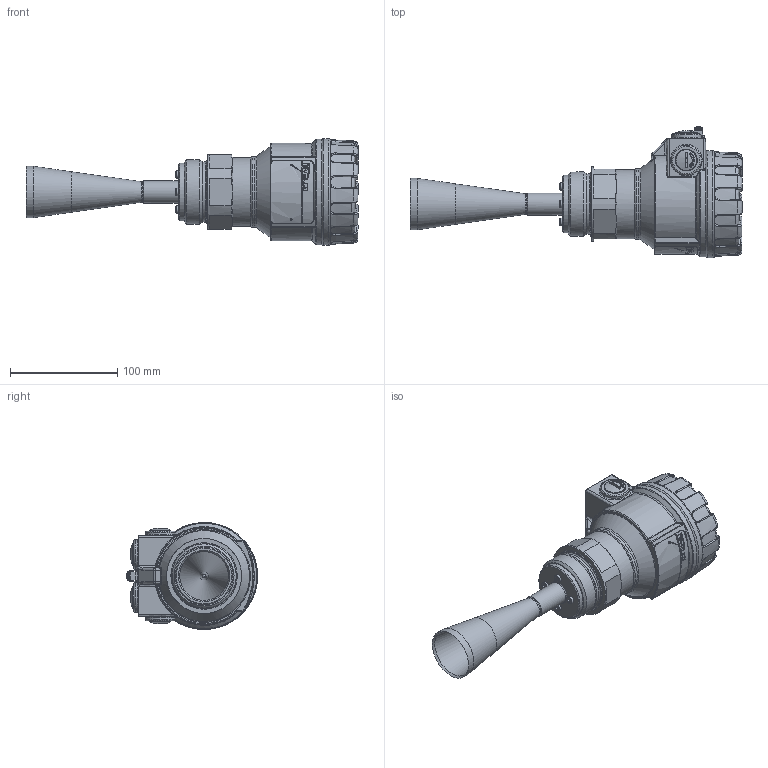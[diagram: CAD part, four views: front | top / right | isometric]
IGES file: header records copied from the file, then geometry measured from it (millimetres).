
Global section: file name: WES_150_Al; native system: Autodesk Inventor 2015; preprocessor: unknown; author: aantal; date: 20150306.113859; units: millimetre
Bounding box: 310.16 x 122.55 x 99.93 mm (x, y, z)
Volume: 871917.6 mm3; surface area: 138402.5 mm2
Topology: 16 solids, 17 shells, 1233 faces, 3122 edges, 1968 vertices
Faces by surface type: bspline 1233
